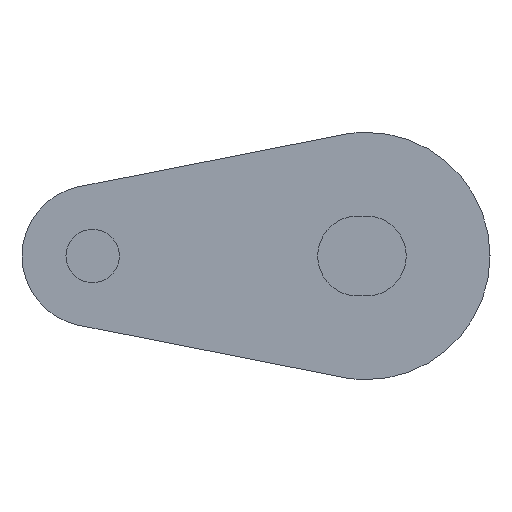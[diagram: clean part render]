
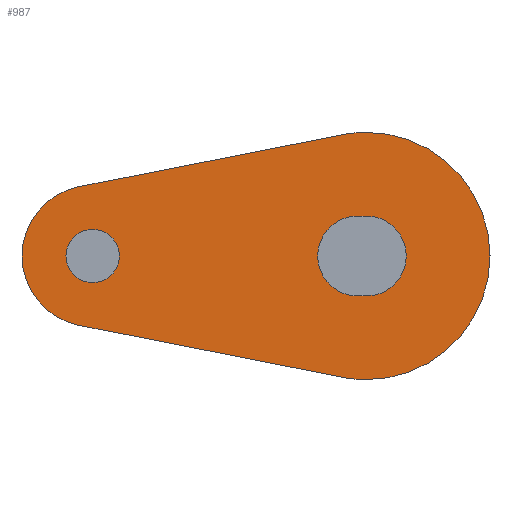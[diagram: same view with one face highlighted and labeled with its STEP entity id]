
A CAD part, left-side view. The second image highlights one B-rep face of the part: STEP entity #987.
In plain terms, the highlighted planar face has unit normal (-1, 0, 0).
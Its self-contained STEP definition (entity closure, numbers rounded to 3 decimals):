
#9 = ORIENTED_EDGE ( 'NONE', *, *, #264, .T. ) ;
#13 = ORIENTED_EDGE ( 'NONE', *, *, #260, .T. ) ;
#29 = ORIENTED_EDGE ( 'NONE', *, *, #276, .F. ) ;
#56 = ORIENTED_EDGE ( 'NONE', *, *, #284, .T. ) ;
#66 = ORIENTED_EDGE ( 'NONE', *, *, #296, .F. ) ;
#73 = CIRCLE ( 'NONE', #298, 1.51 ) ;
#98 = CIRCLE ( 'NONE', #325, 7. ) ;
#113 = CIRCLE ( 'NONE', #418, 7. ) ;
#116 = CIRCLE ( 'NONE', #356, 1.51 ) ;
#122 = LINE ( 'NONE', #601, #127 ) ;
#127 = VECTOR ( 'NONE', #530, 1000. ) ;
#128 = CIRCLE ( 'NONE', #396, 7. ) ;
#137 = CIRCLE ( 'NONE', #300, 2.26 ) ;
#147 = VECTOR ( 'NONE', #579, 1000. ) ;
#148 = VECTOR ( 'NONE', #583, 1000. ) ;
#149 = CIRCLE ( 'NONE', #274, 4. ) ;
#150 = LINE ( 'NONE', #518, #148 ) ;
#151 = LINE ( 'NONE', #582, #147 ) ;
#152 = VECTOR ( 'NONE', #550, 1000. ) ;
#154 = CIRCLE ( 'NONE', #273, 2.26 ) ;
#186 = ORIENTED_EDGE ( 'NONE', *, *, #262, .F. ) ;
#192 = ORIENTED_EDGE ( 'NONE', *, *, #268, .T. ) ;
#194 = ORIENTED_EDGE ( 'NONE', *, *, #286, .F. ) ;
#195 = ORIENTED_EDGE ( 'NONE', *, *, #336, .T. ) ;
#196 = ORIENTED_EDGE ( 'NONE', *, *, #287, .F. ) ;
#204 = ORIENTED_EDGE ( 'NONE', *, *, #258, .T. ) ;
#219 = ORIENTED_EDGE ( 'NONE', *, *, #261, .F. ) ;
#258 = EDGE_CURVE ( 'NONE', #534, #523, #154, .T. ) ;
#260 = EDGE_CURVE ( 'NONE', #523, #526, #1013, .T. ) ;
#261 = EDGE_CURVE ( 'NONE', #456, #461, #149, .T. ) ;
#262 = EDGE_CURVE ( 'NONE', #578, #456, #150, .T. ) ;
#264 = EDGE_CURVE ( 'NONE', #527, #534, #151, .T. ) ;
#268 = EDGE_CURVE ( 'NONE', #526, #527, #137, .T. ) ;
#273 = AXIS2_PLACEMENT_3D ( 'NONE', #589, #485, #521 ) ;
#274 = AXIS2_PLACEMENT_3D ( 'NONE', #551, #549, #563 ) ;
#276 = EDGE_CURVE ( 'NONE', #586, #554, #128, .T. ) ;
#284 = EDGE_CURVE ( 'NONE', #559, #584, #116, .T. ) ;
#286 = EDGE_CURVE ( 'NONE', #554, #578, #113, .T. ) ;
#287 = EDGE_CURVE ( 'NONE', #461, #577, #122, .T. ) ;
#296 = EDGE_CURVE ( 'NONE', #577, #586, #98, .T. ) ;
#298 = AXIS2_PLACEMENT_3D ( 'NONE', #428, #446, #450 ) ;
#300 = AXIS2_PLACEMENT_3D ( 'NONE', #473, #469, #575 ) ;
#323 = AXIS2_PLACEMENT_3D ( 'NONE', #686, #685, #684 ) ;
#325 = AXIS2_PLACEMENT_3D ( 'NONE', #543, #454, #453 ) ;
#336 = EDGE_CURVE ( 'NONE', #584, #559, #73, .T. ) ;
#356 = AXIS2_PLACEMENT_3D ( 'NONE', #607, #512, #515 ) ;
#396 = AXIS2_PLACEMENT_3D ( 'NONE', #564, #610, #471 ) ;
#418 = AXIS2_PLACEMENT_3D ( 'NONE', #604, #603, #602 ) ;
#428 = CARTESIAN_POINT ( 'NONE',  ( -132.5, 15.5, 0. ) ) ;
#446 = DIRECTION ( 'NONE',  ( 1., 0., 0. ) ) ;
#450 = DIRECTION ( 'NONE',  ( 0., 0., -1. ) ) ;
#453 = DIRECTION ( 'NONE',  ( 0., 0., -1. ) ) ;
#454 = DIRECTION ( 'NONE',  ( 1., 0., 0. ) ) ;
#456 = VERTEX_POINT ( 'NONE', #881 ) ;
#461 = VERTEX_POINT ( 'NONE', #875 ) ;
#469 = DIRECTION ( 'NONE',  ( 1., 0., 0. ) ) ;
#471 = DIRECTION ( 'NONE',  ( 0., 0., -1. ) ) ;
#473 = CARTESIAN_POINT ( 'NONE',  ( -132.5, 0.5, 0. ) ) ;
#485 = DIRECTION ( 'NONE',  ( 1., 0., 0. ) ) ;
#500 = CARTESIAN_POINT ( 'NONE',  ( -132.5, 0.5, -2.26 ) ) ;
#512 = DIRECTION ( 'NONE',  ( 1., 0., 0. ) ) ;
#515 = DIRECTION ( 'NONE',  ( 0., 0., -1. ) ) ;
#518 = CARTESIAN_POINT ( 'NONE',  ( -132.5, 1.355, -6.868 ) ) ;
#521 = DIRECTION ( 'NONE',  ( 0., 0., -1. ) ) ;
#523 = VERTEX_POINT ( 'NONE', #896 ) ;
#526 = VERTEX_POINT ( 'NONE', #848 ) ;
#527 = VERTEX_POINT ( 'NONE', #849 ) ;
#530 = DIRECTION ( 'NONE',  ( 0., -0.981, 0.194 ) ) ;
#534 = VERTEX_POINT ( 'NONE', #850 ) ;
#543 = CARTESIAN_POINT ( 'NONE',  ( -132.5, 0., 0. ) ) ;
#549 = DIRECTION ( 'NONE',  ( 1., 0., 0. ) ) ;
#550 = DIRECTION ( 'NONE',  ( 0., 1., 0. ) ) ;
#551 = CARTESIAN_POINT ( 'NONE',  ( -132.5, 15.5, 0. ) ) ;
#554 = VERTEX_POINT ( 'NONE', #890 ) ;
#559 = VERTEX_POINT ( 'NONE', #904 ) ;
#563 = DIRECTION ( 'NONE',  ( 0., 0., -1. ) ) ;
#564 = CARTESIAN_POINT ( 'NONE',  ( -132.5, 0., 0. ) ) ;
#575 = DIRECTION ( 'NONE',  ( 0., 0., -1. ) ) ;
#577 = VERTEX_POINT ( 'NONE', #839 ) ;
#578 = VERTEX_POINT ( 'NONE', #838 ) ;
#579 = DIRECTION ( 'NONE',  ( 0., -1., 0. ) ) ;
#582 = CARTESIAN_POINT ( 'NONE',  ( -132.5, 0.5, 2.26 ) ) ;
#583 = DIRECTION ( 'NONE',  ( 0., 0.981, 0.194 ) ) ;
#584 = VERTEX_POINT ( 'NONE', #837 ) ;
#586 = VERTEX_POINT ( 'NONE', #840 ) ;
#589 = CARTESIAN_POINT ( 'NONE',  ( -132.5, 0., 0. ) ) ;
#601 = CARTESIAN_POINT ( 'NONE',  ( -132.5, 16.274, 3.924 ) ) ;
#602 = DIRECTION ( 'NONE',  ( 0., 0., -1. ) ) ;
#603 = DIRECTION ( 'NONE',  ( 1., 0., 0. ) ) ;
#604 = CARTESIAN_POINT ( 'NONE',  ( -132.5, 0., 0. ) ) ;
#607 = CARTESIAN_POINT ( 'NONE',  ( -132.5, 15.5, 0. ) ) ;
#610 = DIRECTION ( 'NONE',  ( 1., 0., 0. ) ) ;
#659 = FACE_OUTER_BOUND ( 'NONE', #1036, .T. ) ;
#660 = FACE_BOUND ( 'NONE', #1043, .T. ) ;
#667 = FACE_BOUND ( 'NONE', #1042, .T. ) ;
#684 = DIRECTION ( 'NONE',  ( 0., 0., -1. ) ) ;
#685 = DIRECTION ( 'NONE',  ( -1., 0., 0. ) ) ;
#686 = CARTESIAN_POINT ( 'NONE',  ( -132.5, 15.5, 0. ) ) ;
#700 = PLANE ( 'NONE',  #323 ) ;
#837 = CARTESIAN_POINT ( 'NONE',  ( -132.5, 15.5, -1.51 ) ) ;
#838 = CARTESIAN_POINT ( 'NONE',  ( -132.5, 1.355, -6.868 ) ) ;
#839 = CARTESIAN_POINT ( 'NONE',  ( -132.5, 1.355, 6.868 ) ) ;
#840 = CARTESIAN_POINT ( 'NONE',  ( -132.5, 0., 7. ) ) ;
#848 = CARTESIAN_POINT ( 'NONE',  ( -132.5, 0.5, -2.26 ) ) ;
#849 = CARTESIAN_POINT ( 'NONE',  ( -132.5, 0.5, 2.26 ) ) ;
#850 = CARTESIAN_POINT ( 'NONE',  ( -132.5, 0., 2.26 ) ) ;
#875 = CARTESIAN_POINT ( 'NONE',  ( -132.5, 16.274, 3.924 ) ) ;
#881 = CARTESIAN_POINT ( 'NONE',  ( -132.5, 16.274, -3.924 ) ) ;
#890 = CARTESIAN_POINT ( 'NONE',  ( -132.5, 0., -7. ) ) ;
#896 = CARTESIAN_POINT ( 'NONE',  ( -132.5, 0., -2.26 ) ) ;
#904 = CARTESIAN_POINT ( 'NONE',  ( -132.5, 15.5, 1.51 ) ) ;
#987 = ADVANCED_FACE ( 'NONE', ( #667, #660, #659 ), #700, .T. ) ;
#1013 = LINE ( 'NONE', #500, #152 ) ;
#1036 = EDGE_LOOP ( 'NONE', ( #219, #186, #194, #29, #66, #196 ) ) ;
#1042 = EDGE_LOOP ( 'NONE', ( #192, #9, #204, #13 ) ) ;
#1043 = EDGE_LOOP ( 'NONE', ( #195, #56 ) ) ;
